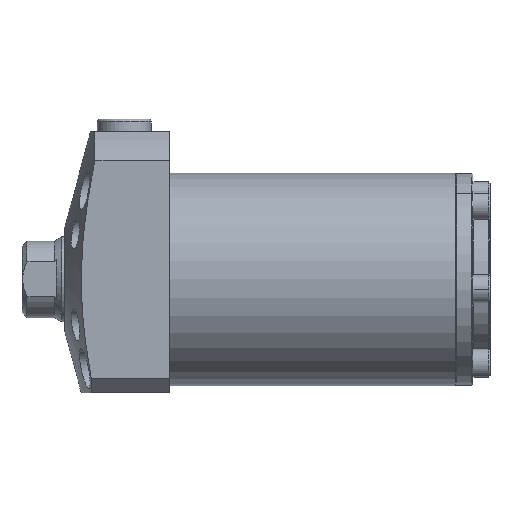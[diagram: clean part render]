
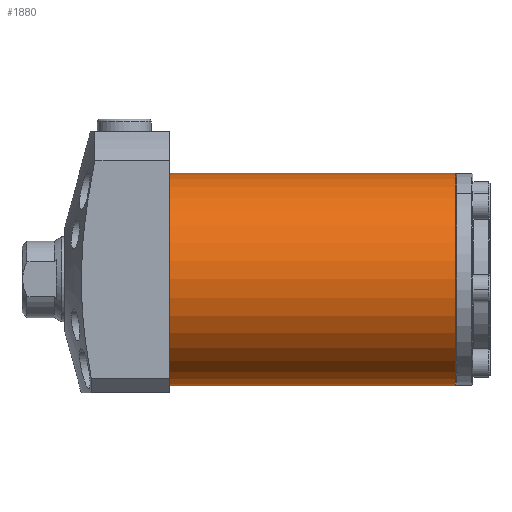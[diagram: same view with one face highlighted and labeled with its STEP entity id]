
A CAD part, left-side view. The second image highlights one B-rep face of the part: STEP entity #1880.
In plain terms, the highlighted cylindrical face has radius 37.5 mm (diameter 75 mm), a partial arc.
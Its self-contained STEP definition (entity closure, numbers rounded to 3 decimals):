
#236 = EDGE_LOOP ( 'NONE', ( #608, #609, #610, #611 ) ) ;
#608 = ORIENTED_EDGE ( 'NONE', *, *, #2071, .F. ) ;
#609 = ORIENTED_EDGE ( 'NONE', *, *, #999, .T. ) ;
#610 = ORIENTED_EDGE ( 'NONE', *, *, #2073, .T. ) ;
#611 = ORIENTED_EDGE ( 'NONE', *, *, #996, .F. ) ;
#996 = EDGE_CURVE ( 'NONE', #1405, #1404, #2736, .T. ) ;
#999 = EDGE_CURVE ( 'NONE', #1400, #1399, #2743, .T. ) ;
#1399 = VERTEX_POINT ( 'NONE', #4569 ) ;
#1400 = VERTEX_POINT ( 'NONE', #4570 ) ;
#1404 = VERTEX_POINT ( 'NONE', #4574 ) ;
#1405 = VERTEX_POINT ( 'NONE', #4575 ) ;
#1880 = ADVANCED_FACE ( 'NONE', ( #5218 ), #5220, .T. ) ;
#2071 = EDGE_CURVE ( 'NONE', #1400, #1405, #6673, .T. ) ;
#2073 = EDGE_CURVE ( 'NONE', #1399, #1404, #6672, .T. ) ;
#2736 = CIRCLE ( 'NONE', #2741, 37.5 ) ;
#2741 = AXIS2_PLACEMENT_3D ( 'NONE', #3823, #3824, #3825 ) ;
#2743 = CIRCLE ( 'NONE', #2745, 37.5 ) ;
#2745 = AXIS2_PLACEMENT_3D ( 'NONE', #3831, #3832, #3833 ) ;
#3823 = CARTESIAN_POINT ( 'NONE',  ( 0., 0., 0. ) ) ;
#3824 = DIRECTION ( 'NONE',  ( 0., 1., 0. ) ) ;
#3825 = DIRECTION ( 'NONE',  ( 0., 0., 1. ) ) ;
#3831 = CARTESIAN_POINT ( 'NONE',  ( 0., -100.8, 0. ) ) ;
#3832 = DIRECTION ( 'NONE',  ( 0., 1., 0. ) ) ;
#3833 = DIRECTION ( 'NONE',  ( 0., 0., 1. ) ) ;
#4569 = CARTESIAN_POINT ( 'NONE',  ( 0., -100.8, 37.5 ) ) ;
#4570 = CARTESIAN_POINT ( 'NONE',  ( 0., -100.8, -37.5 ) ) ;
#4574 = CARTESIAN_POINT ( 'NONE',  ( 0., 0., 37.5 ) ) ;
#4575 = CARTESIAN_POINT ( 'NONE',  ( 0., 0., -37.5 ) ) ;
#4780 = AXIS2_PLACEMENT_3D ( 'NONE', #5219, #5213, #5221 ) ;
#5213 = DIRECTION ( 'NONE',  ( 0., 1., 0. ) ) ;
#5218 = FACE_OUTER_BOUND ( 'NONE', #236, .T. ) ;
#5219 = CARTESIAN_POINT ( 'NONE',  ( 0., -100.8, 0. ) ) ;
#5220 = CYLINDRICAL_SURFACE ( 'NONE', #4780, 37.5 ) ;
#5221 = DIRECTION ( 'NONE',  ( 0., 0., 1. ) ) ;
#6139 = VECTOR ( 'NONE', #6677, 1000. ) ;
#6146 = VECTOR ( 'NONE', #6682, 1000. ) ;
#6666 = CARTESIAN_POINT ( 'NONE',  ( 0., -100.8, -37.5 ) ) ;
#6671 = CARTESIAN_POINT ( 'NONE',  ( 0., -100.8, 37.5 ) ) ;
#6672 = LINE ( 'NONE', #6671, #6146 ) ;
#6673 = LINE ( 'NONE', #6666, #6139 ) ;
#6677 = DIRECTION ( 'NONE',  ( 0., 1., 0. ) ) ;
#6682 = DIRECTION ( 'NONE',  ( 0., 1., 0. ) ) ;
